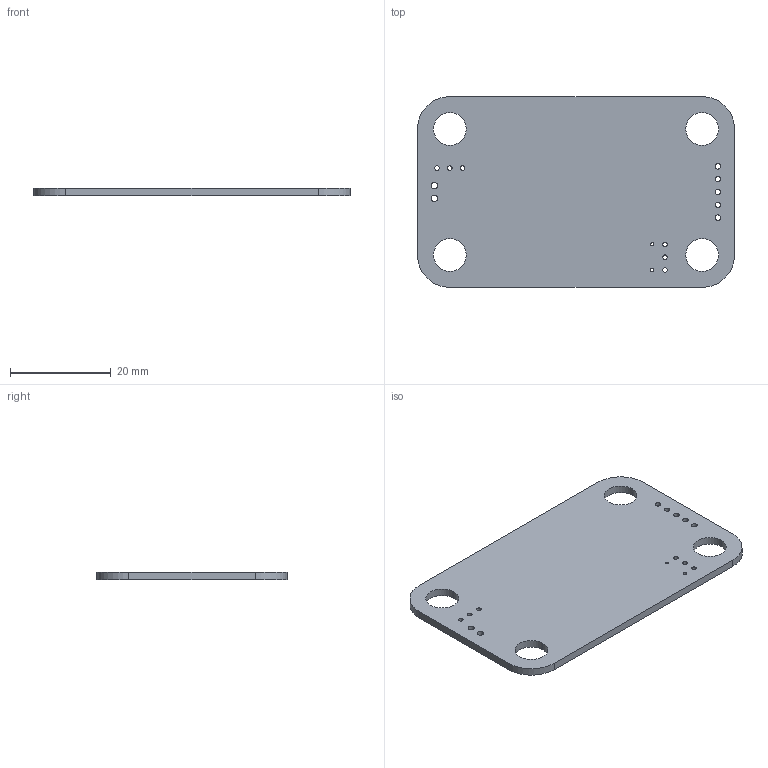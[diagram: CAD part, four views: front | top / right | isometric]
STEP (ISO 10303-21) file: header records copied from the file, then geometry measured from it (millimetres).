
FILE_DESCRIPTION (( 'STEP AP214' ), '1' );
FILE_NAME ('DRV110_V2.STEP', '2018-12-06T15:48:19', ( '' ), ( '' ), 'SwSTEP 2.0', 'SolidWorks 2015', '' );
FILE_SCHEMA (( 'AUTOMOTIVE_DESIGN' ));
Length unit declared in the file: millimetre
Products named in the file (1): DRV110_V2
Bounding box: 62.8 x 37.8 x 1.56 mm (x, y, z)
Volume: 3414.8 mm3; surface area: 4883.5 mm2
Topology: 1 solids, 1 shells, 48 faces, 138 edges, 92 vertices
Faces by surface type: cylinder 42, plane 6
Entity records: 2264 total; most frequent: DIRECTION 320, CARTESIAN_POINT 279, ORIENTED_EDGE 276, EDGE_CURVE 138, AXIS2_PLACEMENT_3D 133, VERTEX_POINT 92, EDGE_LOOP 86, CIRCLE 84
